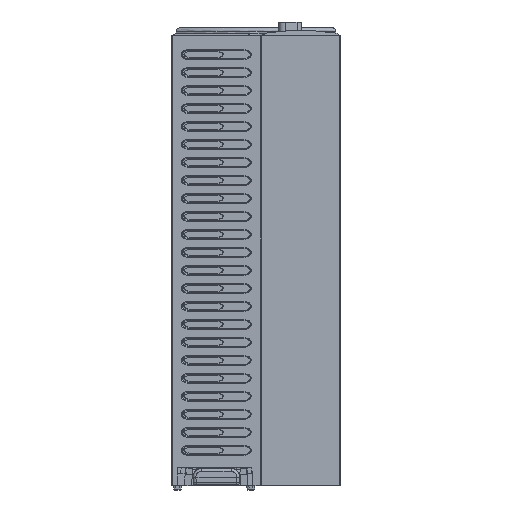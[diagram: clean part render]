
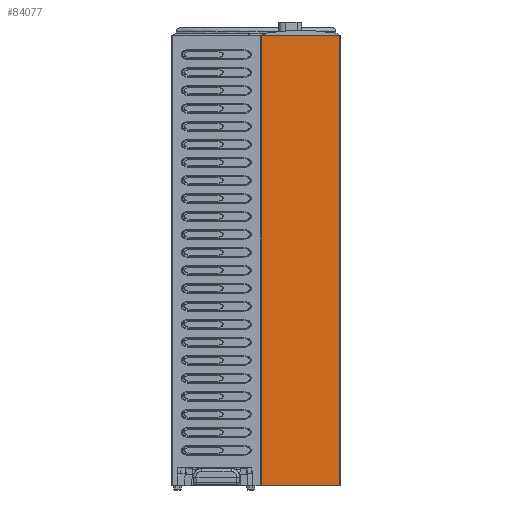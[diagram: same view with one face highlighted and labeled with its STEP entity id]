
A CAD part, front view. The second image highlights one B-rep face of the part: STEP entity #84077.
In plain terms, the highlighted planar face has unit normal (0.018, -1, 0).
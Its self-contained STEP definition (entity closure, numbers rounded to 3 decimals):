
#10472 = VERTEX_POINT ( 'NONE', #121760 ) ;
#10538 = VERTEX_POINT ( 'NONE', #121768 ) ;
#10695 = VERTEX_POINT ( 'NONE', #121781 ) ;
#10721 = VERTEX_POINT ( 'NONE', #121775 ) ;
#43289 = VECTOR ( 'NONE', #104365, 1000. ) ;
#43302 = VECTOR ( 'NONE', #104344, 1000. ) ;
#43307 = VECTOR ( 'NONE', #104359, 1000. ) ;
#73533 = EDGE_CURVE ( 'NONE', #10695, #10472, #147918, .T. ) ;
#84077 = ADVANCED_FACE ( 'NONE', ( #166589 ), #166596, .T. ) ;
#94496 = EDGE_CURVE ( 'NONE', #10538, #10695, #104339, .T. ) ;
#94500 = EDGE_CURVE ( 'NONE', #10721, #10472, #104353, .T. ) ;
#94503 = EDGE_CURVE ( 'NONE', #10538, #10721, #104317, .T. ) ;
#104317 = LINE ( 'NONE', #104361, #43289 ) ;
#104339 = LINE ( 'NONE', #104342, #43302 ) ;
#104342 = CARTESIAN_POINT ( 'NONE',  ( -185.878, -52.303, 1.5 ) ) ;
#104344 = DIRECTION ( 'NONE',  ( -1., -0.017, 0. ) ) ;
#104353 = LINE ( 'NONE', #104357, #43307 ) ;
#104357 = CARTESIAN_POINT ( 'NONE',  ( -198.982, -52.532, 152.342 ) ) ;
#104359 = DIRECTION ( 'NONE',  ( -1., -0.017, 0. ) ) ;
#104361 = CARTESIAN_POINT ( 'NONE',  ( -185.878, -52.303, 78.328 ) ) ;
#104365 = DIRECTION ( 'NONE',  ( 0., 0., 1. ) ) ;
#104558 = EDGE_LOOP ( 'NONE', ( #171636, #171637, #171638, #171639 ) ) ;
#121760 = CARTESIAN_POINT ( 'NONE',  ( -212.282, -52.764, 152.342 ) ) ;
#121768 = CARTESIAN_POINT ( 'NONE',  ( -185.878, -52.303, 1.5 ) ) ;
#121775 = CARTESIAN_POINT ( 'NONE',  ( -185.878, -52.303, 152.342 ) ) ;
#121781 = CARTESIAN_POINT ( 'NONE',  ( -212.282, -52.764, 1.5 ) ) ;
#147918 = LINE ( 'NONE', #147932, #166811 ) ;
#147932 = CARTESIAN_POINT ( 'NONE',  ( -212.282, -52.764, 77.326 ) ) ;
#147934 = DIRECTION ( 'NONE',  ( 0., 0., 1. ) ) ;
#165747 = AXIS2_PLACEMENT_3D ( 'NONE', #166598, #166600, #166601 ) ;
#166589 = FACE_OUTER_BOUND ( 'NONE', #104558, .T. ) ;
#166596 = PLANE ( 'NONE',  #165747 ) ;
#166598 = CARTESIAN_POINT ( 'NONE',  ( -212.382, -52.766, 1.4 ) ) ;
#166600 = DIRECTION ( 'NONE',  ( 0.017, -1., 0. ) ) ;
#166601 = DIRECTION ( 'NONE',  ( 1., 0.017, 0. ) ) ;
#166811 = VECTOR ( 'NONE', #147934, 1000. ) ;
#171636 = ORIENTED_EDGE ( 'NONE', *, *, #94496, .F. ) ;
#171637 = ORIENTED_EDGE ( 'NONE', *, *, #94503, .T. ) ;
#171638 = ORIENTED_EDGE ( 'NONE', *, *, #94500, .T. ) ;
#171639 = ORIENTED_EDGE ( 'NONE', *, *, #73533, .F. ) ;
